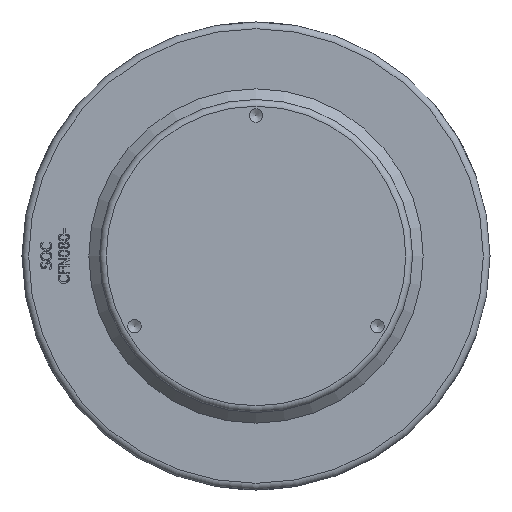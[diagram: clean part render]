
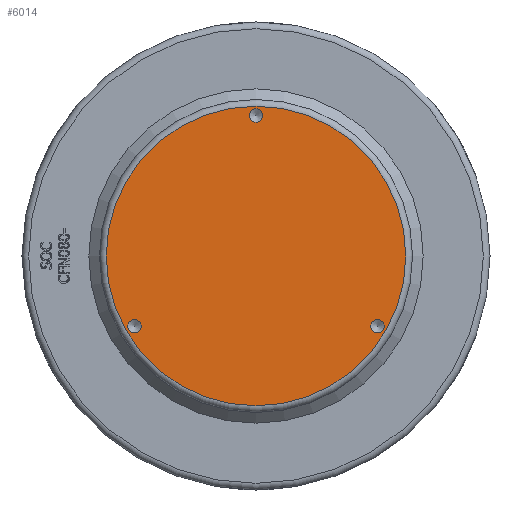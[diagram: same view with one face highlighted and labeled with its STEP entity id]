
A CAD part, front view. The second image highlights one B-rep face of the part: STEP entity #6014.
In plain terms, the highlighted planar face has unit normal (0, -1, 0) as drawn and (0, 1, 0) by its records, which use the part's own axes.
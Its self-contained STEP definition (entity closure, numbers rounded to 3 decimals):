
#85=PLANE('',#6320);
#1685=FACE_BOUND('',#2277,.T.);
#1686=FACE_BOUND('',#2278,.T.);
#1687=FACE_BOUND('',#2279,.T.);
#1907=FACE_OUTER_BOUND('',#2276,.T.);
#2276=EDGE_LOOP('',(#4910));
#2277=EDGE_LOOP('',(#4911));
#2278=EDGE_LOOP('',(#4912));
#2279=EDGE_LOOP('',(#4913));
#2503=CIRCLE('',#6253,5.053);
#2505=CIRCLE('',#6257,5.053);
#2507=CIRCLE('',#6261,5.053);
#2509=CIRCLE('',#6318,112.);
#2529=VERTEX_POINT('',#7208);
#2531=VERTEX_POINT('',#7214);
#2533=VERTEX_POINT('',#7220);
#2823=VERTEX_POINT('',#9469);
#3141=EDGE_CURVE('',#2529,#2529,#2503,.T.);
#3143=EDGE_CURVE('',#2531,#2531,#2505,.T.);
#3145=EDGE_CURVE('',#2533,#2533,#2507,.T.);
#3579=EDGE_CURVE('',#2823,#2823,#2509,.T.);
#4910=ORIENTED_EDGE('',*,*,#3579,.F.);
#4911=ORIENTED_EDGE('',*,*,#3141,.T.);
#4912=ORIENTED_EDGE('',*,*,#3143,.T.);
#4913=ORIENTED_EDGE('',*,*,#3145,.T.);
#6014=ADVANCED_FACE('',(#1907,#1685,#1686,#1687),#85,.T.);
#6253=AXIS2_PLACEMENT_3D('',#7209,#6429,#6430);
#6257=AXIS2_PLACEMENT_3D('',#7215,#6437,#6438);
#6261=AXIS2_PLACEMENT_3D('',#7221,#6445,#6446);
#6318=AXIS2_PLACEMENT_3D('',#9470,#6781,#6782);
#6320=AXIS2_PLACEMENT_3D('',#9473,#6785,#6786);
#6429=DIRECTION('center_axis',(0.,-1.,0.));
#6430=DIRECTION('ref_axis',(-0.5,0.,-0.866));
#6437=DIRECTION('center_axis',(0.,-1.,0.));
#6438=DIRECTION('ref_axis',(-0.5,0.,0.866));
#6445=DIRECTION('center_axis',(0.,-1.,0.));
#6446=DIRECTION('ref_axis',(1.,0.,0.));
#6781=DIRECTION('center_axis',(0.,-1.,0.));
#6782=DIRECTION('ref_axis',(-1.,0.,0.));
#6785=DIRECTION('center_axis',(0.,1.,0.));
#6786=DIRECTION('ref_axis',(0.,0.,1.));
#7208=CARTESIAN_POINT('',(88.406,210.,-56.876));
#7209=CARTESIAN_POINT('Origin',(90.933,210.,-52.5));
#7214=CARTESIAN_POINT('',(-93.459,210.,-48.124));
#7215=CARTESIAN_POINT('Origin',(-90.933,210.,-52.5));
#7220=CARTESIAN_POINT('',(5.053,210.,105.));
#7221=CARTESIAN_POINT('Origin',(0.,210.,105.));
#9469=CARTESIAN_POINT('',(112.,210.,0.));
#9470=CARTESIAN_POINT('Origin',(0.,210.,0.));
#9473=CARTESIAN_POINT('Origin',(117.,210.,0.));
